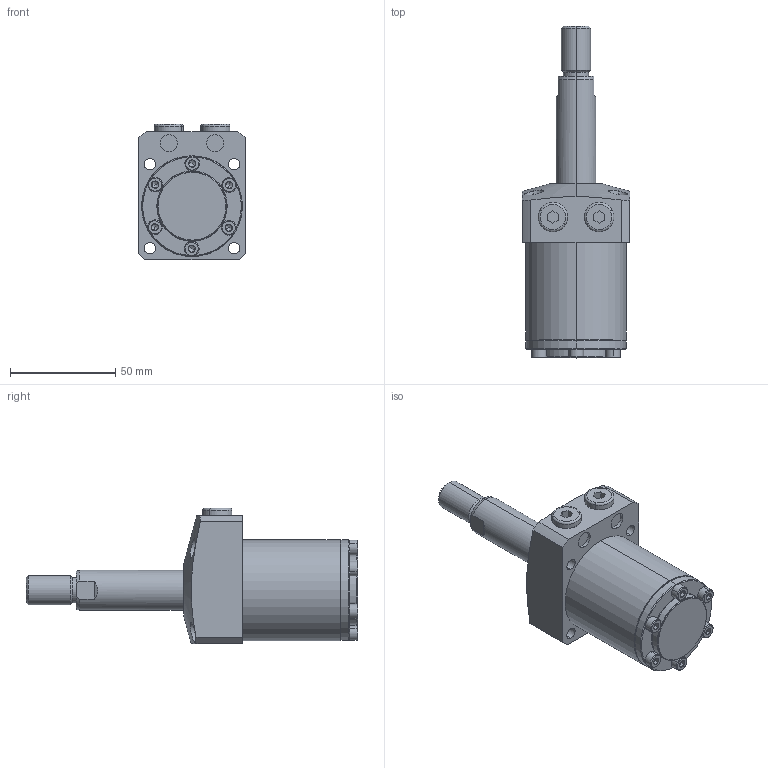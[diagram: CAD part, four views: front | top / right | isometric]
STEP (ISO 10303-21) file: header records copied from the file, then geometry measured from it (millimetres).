
FILE_DESCRIPTION (( 'STEP AP203' ), '1' );
FILE_NAME ('680480-CT-045.STEP', '2019-11-06T04:45:28', ( '微软用户' ), ( '微软中国' ), 'SwSTEP 2.0', 'SolidWorks 2014', '' );
FILE_SCHEMA (( 'CONFIG_CONTROL_DESIGN' ));
Length unit declared in the file: millimetre
Products named in the file (6): 680480-CT-045; 葩璃 680480-CA-45-1^680480-CT-045; 葩璃 680480-CA-15-3^680480-CT-045; 葩璃 680480-CA-15-4^680480-CT-045; 葩璃 680480-CA-15-5^680480-CT-045; 葩璃 680480-45-12^680480-CT-045
Assembly tree (11 placements, depth 2):
  680480-CT-045
    葩璃 680480-CA-45-1^680480-CT-045
    葩璃 680480-CA-15-3^680480-CT-045
    葩璃 680480-CA-15-4^680480-CT-045  x6
    葩璃 680480-CA-15-5^680480-CT-045  x2
    葩璃 680480-45-12^680480-CT-045
Bounding box: 51 x 158 x 64.5 mm (x, y, z)
Volume: 186419.9 mm3; surface area: 34752.4 mm2
Topology: 11 solids, 11 shells, 342 faces, 668 edges, 365 vertices
Faces by surface type: plane 139, cone 97, cylinder 90, torus 16
Entity records: 5549 total; most frequent: CARTESIAN_POINT 1137, DIRECTION 839, ORIENTED_EDGE 684, AXIS2_PLACEMENT_3D 350, EDGE_CURVE 342, VERTEX_POINT 208, EDGE_LOOP 198, CIRCLE 175
